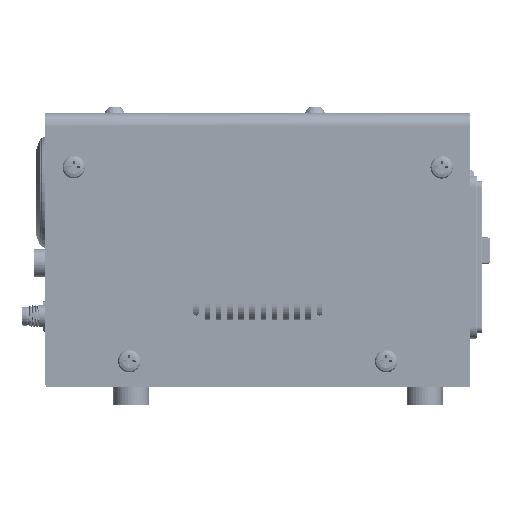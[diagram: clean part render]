
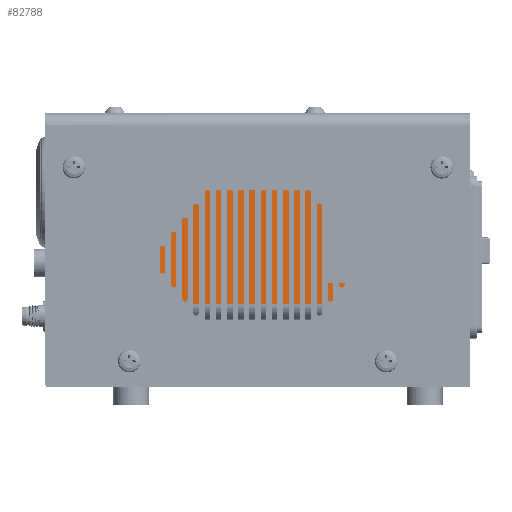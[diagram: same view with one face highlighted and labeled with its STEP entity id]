
A CAD part, left-side view. The second image highlights one B-rep face of the part: STEP entity #82788.
In plain terms, the highlighted planar face has unit normal (-1, 0, 0).
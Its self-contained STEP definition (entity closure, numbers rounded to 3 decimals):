
#3846=FACE_BOUND('',#15214,.T.);
#3847=FACE_BOUND('',#15215,.T.);
#3848=FACE_BOUND('',#15216,.T.);
#3849=FACE_BOUND('',#15217,.T.);
#5754=PLANE('',#87599);
#10345=FACE_OUTER_BOUND('',#15213,.T.);
#15213=EDGE_LOOP('',(#68411,#68412,#68413,#68414,#68415,#68416,#68417,#68418));
#15214=EDGE_LOOP('',(#68419));
#15215=EDGE_LOOP('',(#68420));
#15216=EDGE_LOOP('',(#68421));
#15217=EDGE_LOOP('',(#68422));
#22368=LINE('',#143344,#31103);
#22372=LINE('',#143352,#31107);
#22375=LINE('',#143358,#31110);
#22380=LINE('',#143367,#31115);
#22381=LINE('',#143370,#31116);
#22384=LINE('',#143376,#31119);
#22385=LINE('',#143378,#31120);
#22386=LINE('',#143379,#31121);
#31103=VECTOR('',#98686,10.);
#31107=VECTOR('',#98692,10.);
#31110=VECTOR('',#98697,10.);
#31115=VECTOR('',#98704,10.);
#31116=VECTOR('',#98707,10.);
#31119=VECTOR('',#98712,10.);
#31120=VECTOR('',#98713,10.);
#31121=VECTOR('',#98714,4.32);
#35518=CIRCLE('',#87583,2.388);
#35520=CIRCLE('',#87586,2.388);
#35522=CIRCLE('',#87589,2.388);
#35524=CIRCLE('',#87592,2.388);
#40405=VERTEX_POINT('',#143318);
#40407=VERTEX_POINT('',#143324);
#40409=VERTEX_POINT('',#143330);
#40411=VERTEX_POINT('',#143336);
#40413=VERTEX_POINT('',#143342);
#40414=VERTEX_POINT('',#143343);
#40417=VERTEX_POINT('',#143351);
#40419=VERTEX_POINT('',#143357);
#40422=VERTEX_POINT('',#143365);
#40423=VERTEX_POINT('',#143369);
#40425=VERTEX_POINT('',#143375);
#40426=VERTEX_POINT('',#143377);
#50331=EDGE_CURVE('',#40405,#40405,#35518,.T.);
#50334=EDGE_CURVE('',#40407,#40407,#35520,.T.);
#50337=EDGE_CURVE('',#40409,#40409,#35522,.T.);
#50340=EDGE_CURVE('',#40411,#40411,#35524,.T.);
#50343=EDGE_CURVE('',#40413,#40414,#22368,.T.);
#50347=EDGE_CURVE('',#40417,#40413,#22372,.T.);
#50350=EDGE_CURVE('',#40419,#40417,#22375,.T.);
#50355=EDGE_CURVE('',#40422,#40414,#22380,.T.);
#50356=EDGE_CURVE('',#40419,#40423,#22381,.T.);
#50359=EDGE_CURVE('',#40425,#40422,#22384,.T.);
#50360=EDGE_CURVE('',#40425,#40426,#22385,.T.);
#50361=EDGE_CURVE('',#40423,#40426,#22386,.T.);
#68411=ORIENTED_EDGE('',*,*,#50350,.T.);
#68412=ORIENTED_EDGE('',*,*,#50347,.T.);
#68413=ORIENTED_EDGE('',*,*,#50343,.T.);
#68414=ORIENTED_EDGE('',*,*,#50355,.F.);
#68415=ORIENTED_EDGE('',*,*,#50359,.F.);
#68416=ORIENTED_EDGE('',*,*,#50360,.T.);
#68417=ORIENTED_EDGE('',*,*,#50361,.F.);
#68418=ORIENTED_EDGE('',*,*,#50356,.F.);
#68419=ORIENTED_EDGE('',*,*,#50331,.T.);
#68420=ORIENTED_EDGE('',*,*,#50334,.T.);
#68421=ORIENTED_EDGE('',*,*,#50337,.T.);
#68422=ORIENTED_EDGE('',*,*,#50340,.T.);
#82788=ADVANCED_FACE('',(#10345,#3846,#3847,#3848,#3849),#5754,.F.);
#87583=AXIS2_PLACEMENT_3D('',#143319,#98658,#98659);
#87586=AXIS2_PLACEMENT_3D('',#143325,#98665,#98666);
#87589=AXIS2_PLACEMENT_3D('',#143331,#98672,#98673);
#87592=AXIS2_PLACEMENT_3D('',#143337,#98679,#98680);
#87599=AXIS2_PLACEMENT_3D('',#143374,#98710,#98711);
#98658=DIRECTION('center_axis',(1.,0.,0.));
#98659=DIRECTION('ref_axis',(0.,0.,
1.));
#98665=DIRECTION('center_axis',(1.,0.,0.));
#98666=DIRECTION('ref_axis',(0.,0.,
1.));
#98672=DIRECTION('center_axis',(1.,0.,0.));
#98673=DIRECTION('ref_axis',(0.,0.,
1.));
#98679=DIRECTION('center_axis',(1.,0.,0.));
#98680=DIRECTION('ref_axis',(0.,0.,
1.));
#98686=DIRECTION('',(0.,0.,1.));
#98692=DIRECTION('',(0.,1.,0.));
#98697=DIRECTION('',(0.,0.,-1.));
#98704=DIRECTION('',(0.,-1.,0.));
#98707=DIRECTION('',(0.,-1.,0.));
#98710=DIRECTION('center_axis',(1.,0.,0.));
#98711=DIRECTION('ref_axis',(0.,0.,
-1.));
#98712=DIRECTION('',(0.,0.,1.));
#98713=DIRECTION('',(0.,-1.,0.));
#98714=DIRECTION('',(0.,0.,-1.));
#143318=CARTESIAN_POINT('',(0.,117.48,16.662));
#143319=CARTESIAN_POINT('Origin',(0.,117.48,19.05));
#143324=CARTESIAN_POINT('',(0.,12.7,48.412));
#143325=CARTESIAN_POINT('Origin',(0.,12.7,50.8));
#143330=CARTESIAN_POINT('',(0.,12.7,16.662));
#143331=CARTESIAN_POINT('Origin',(0.,12.7,19.05));
#143336=CARTESIAN_POINT('',(0.,117.48,48.412));
#143337=CARTESIAN_POINT('Origin',(0.,117.48,50.8));
#143342=CARTESIAN_POINT('',(0.,104.42,46.61));
#143343=CARTESIAN_POINT('',(0.,104.42,63.5));
#143344=CARTESIAN_POINT('',(0.,104.42,38.984));
#143351=CARTESIAN_POINT('',(0.,32.03,46.61));
#143352=CARTESIAN_POINT('',(0.,48.503,46.61));
#143357=CARTESIAN_POINT('',(0.,32.03,63.5));
#143358=CARTESIAN_POINT('',(0.,32.03,47.429));
#143365=CARTESIAN_POINT('',(0.,123.95,63.5));
#143367=CARTESIAN_POINT('',(0.,123.95,63.5));
#143369=CARTESIAN_POINT('',(0.,6.,63.5));
#143370=CARTESIAN_POINT('',(0.,123.95,63.5));
#143374=CARTESIAN_POINT('Origin',(0.,64.975,31.357));
#143375=CARTESIAN_POINT('',(0.,123.95,6.));
#143376=CARTESIAN_POINT('',(0.,123.95,6.));
#143377=CARTESIAN_POINT('',(0.,6.,6.));
#143378=CARTESIAN_POINT('',(0.,64.975,6.));
#143379=CARTESIAN_POINT('',(0.,6.,-7.572));
